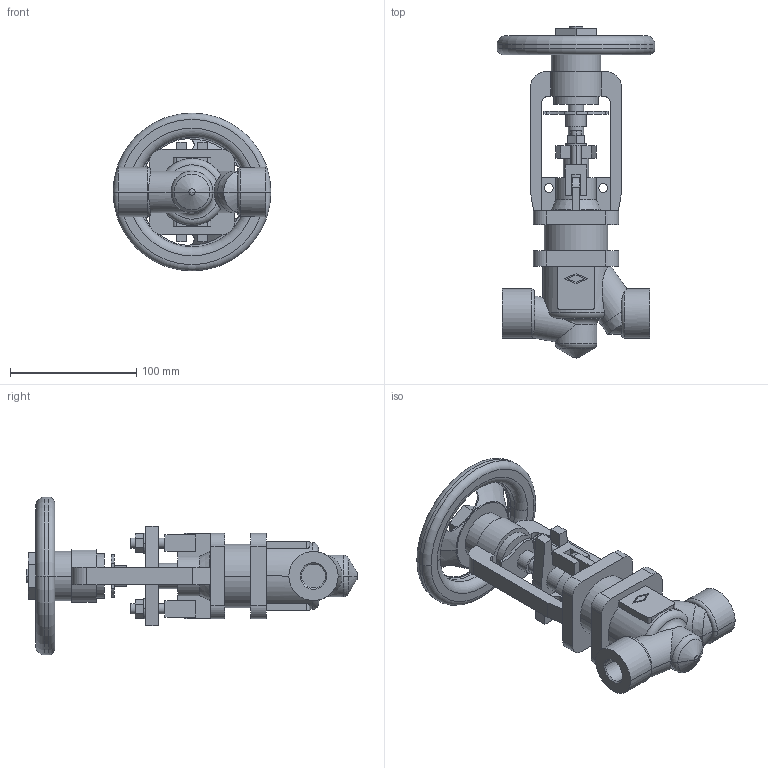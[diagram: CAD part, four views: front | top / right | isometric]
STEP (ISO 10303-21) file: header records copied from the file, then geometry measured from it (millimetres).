
FILE_DESCRIPTION(('OneSpaceDesigner STEP Export'),'2;1');
FILE_NAME('c000004253.stp','2010-05-04T 9:25:19',(''),(''),'OneSpace Designer STEP processor for AP214 (Solid Model)','OneSpace Modeling 15.50B 03-Nov-2007 (C) CoCreate Software GmbH','');
FILE_SCHEMA(('AUTOMOTIVE_DESIGN { 1 0 10303 214 1 1 1 1 }'));
Length unit declared in the file: millimetre
Products named in the file (1): 1
Bounding box: 125 x 262.73 x 125 mm (x, y, z)
Volume: 598512.1 mm3; surface area: 112906.3 mm2
Topology: 1 solids, 1 shells, 286 faces, 761 edges, 496 vertices
Faces by surface type: plane 143, cylinder 97, torus 24, cone 20, sphere 2
Entity records: 11346 total; most frequent: CARTESIAN_POINT 2286, ORIENTED_EDGE 1522, DIRECTION 1272, EDGE_CURVE 761, VERTEX_POINT 496, AXIS2_PLACEMENT_3D 427, VECTOR 418, LINE 418
